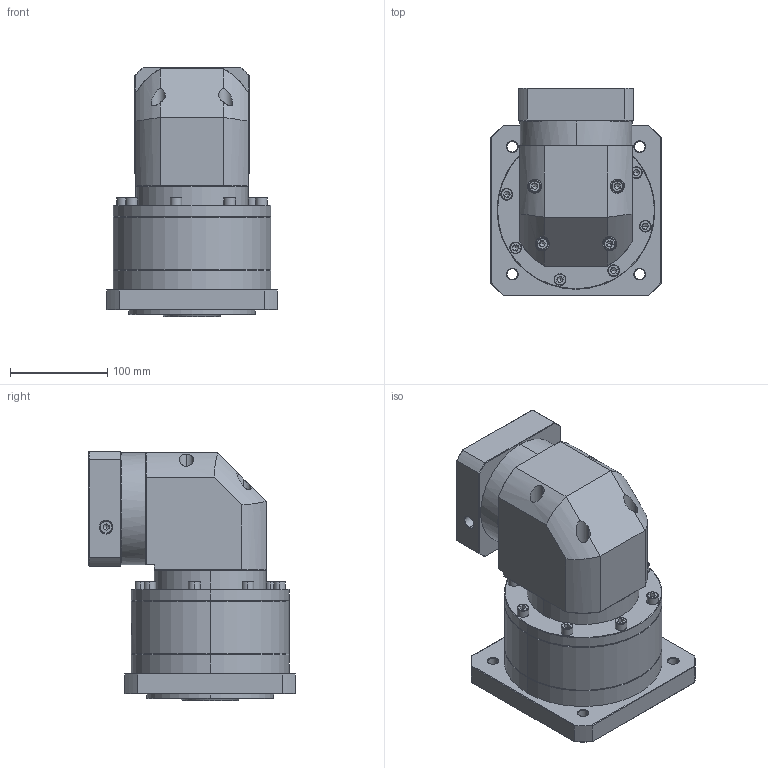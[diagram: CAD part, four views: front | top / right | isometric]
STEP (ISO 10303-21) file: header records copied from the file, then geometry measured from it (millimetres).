
FILE_DESCRIPTION (( 'STEP AP214' ), '1' );
FILE_NAME ('ZFR160A-K35-L2-P2-24-95-115-M6.step', '2023-09-03T09:44:31', ( '' ), ( '' ), 'SwSTEP 2.0', 'SolidWorks 2016', '' );
FILE_SCHEMA (( 'AUTOMOTIVE_DESIGN' ));
Length unit declared in the file: millimetre
Products named in the file (1): ZFR160A-K35-L2-P2-24-95-115-M6
Bounding box: 175 x 212.4 x 256.2 mm (x, y, z)
Volume: 4561536.8 mm3; surface area: 324615.6 mm2
Topology: 6 solids, 6 shells, 2400 faces, 6280 edges, 4005 vertices
Faces by surface type: plane 1138, cylinder 447, bspline 407, cone 364, torus 44
Entity records: 126721 total; most frequent: CARTESIAN_POINT 46371, ORIENTED_EDGE 12456, DIRECTION 9506, EDGE_CURVE 6228, VERTEX_POINT 4005, VECTOR 3360, LINE 3360, AXIS2_PLACEMENT_3D 3073
